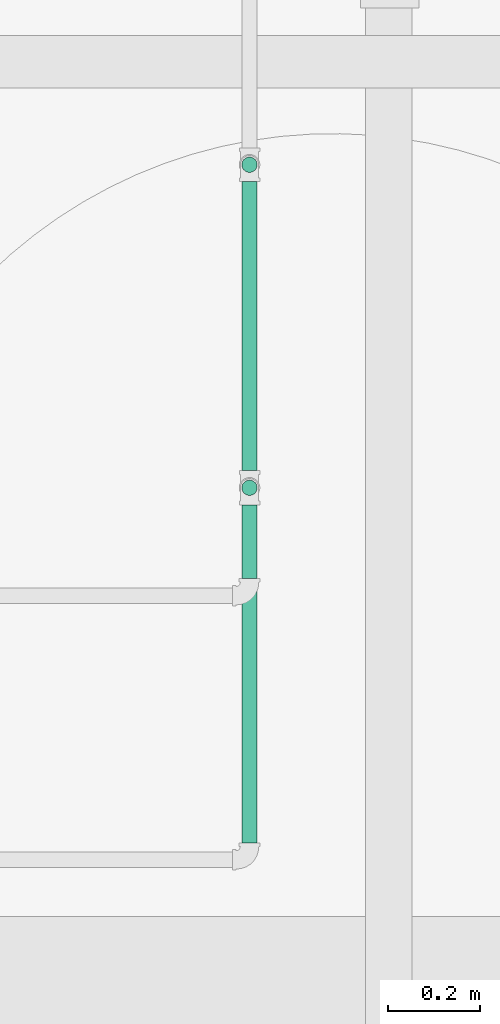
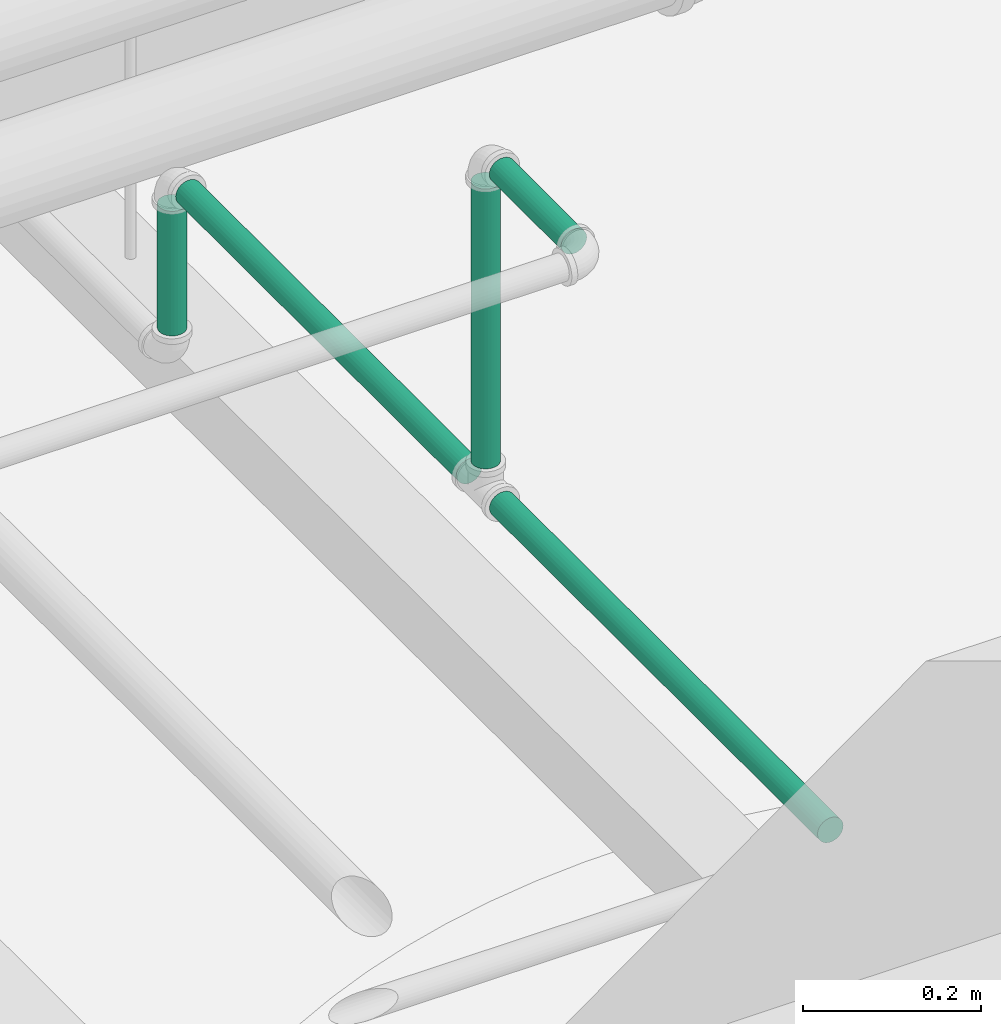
# One storey, part 46 of 108: 5 pipe segments.
"""IFC4 building model written with IfcOpenShell, lengths in feet."""

from ifc_helpers import new_model, entity, si_unit, converted_unit, derived_unit, direction, frame, frame_2d, origin, origin_2d_with_axis, place, context, subcontext, project, spatial, circle, extrude, type_object, element, save


model = new_model("IFC4")

# Units and contexts
model_context = context("Model", 3, precision=0.0001, world=origin(), true_north=direction((6.12303176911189e-17, 1.0)))
body_context = subcontext(model_context, "Body", "Model", "MODEL_VIEW")
ifc_project = project(units=[converted_unit("LENGTHUNIT", "FOOT", entity("IfcRatioMeasure", 0.3048), si_unit("LENGTHUNIT", "METRE"), dimensions=[1, 0, 0, 0, 0, 0, 0]), converted_unit("AREAUNIT", "SQUARE FOOT", entity("IfcRatioMeasure", 0.09290304), si_unit("AREAUNIT", "SQUARE_METRE"), dimensions=[2, 0, 0, 0, 0, 0, 0]), converted_unit("VOLUMEUNIT", "CUBIC FOOT", entity("IfcRatioMeasure", 0.028316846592), si_unit("VOLUMEUNIT", "CUBIC_METRE"), dimensions=[3, 0, 0, 0, 0, 0, 0]), converted_unit("PLANEANGLEUNIT", "DEGREE", entity("IfcRatioMeasure", 0.0174532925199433), si_unit("PLANEANGLEUNIT", "RADIAN"), dimensions=[0, 0, 0, 0, 0, 0, 0]), si_unit("MASSUNIT", "GRAM", prefix="KILO"), derived_unit("MASSDENSITYUNIT", [(si_unit("MASSUNIT", "GRAM", prefix="KILO"), 1), (si_unit("LENGTHUNIT", "METRE"), -3)]), si_unit("TIMEUNIT", "SECOND"), si_unit("FREQUENCYUNIT", "HERTZ"), si_unit("THERMODYNAMICTEMPERATUREUNIT", "DEGREE_CELSIUS"), derived_unit("THERMALTRANSMITTANCEUNIT", [(si_unit("MASSUNIT", "GRAM", prefix="KILO"), 1), (si_unit("THERMODYNAMICTEMPERATUREUNIT", "KELVIN"), -1), (si_unit("TIMEUNIT", "SECOND"), -3)]), derived_unit("VOLUMETRICFLOWRATEUNIT", [(si_unit("LENGTHUNIT", "METRE"), 3), (si_unit("TIMEUNIT", "SECOND"), -1)]), si_unit("ELECTRICCURRENTUNIT", "AMPERE"), si_unit("ELECTRICVOLTAGEUNIT", "VOLT"), si_unit("POWERUNIT", "WATT"), si_unit("FORCEUNIT", "NEWTON"), si_unit("ILLUMINANCEUNIT", "LUX"), si_unit("LUMINOUSFLUXUNIT", "LUMEN"), si_unit("LUMINOUSINTENSITYUNIT", "CANDELA"), derived_unit("USERDEFINED", [(si_unit("MASSUNIT", "GRAM", prefix="KILO"), -1), (si_unit("LENGTHUNIT", "METRE"), -2), (si_unit("TIMEUNIT", "SECOND"), 3), (si_unit("LUMINOUSFLUXUNIT", "LUMEN"), 1)]), derived_unit("LINEARVELOCITYUNIT", [(si_unit("LENGTHUNIT", "METRE"), 1), (si_unit("TIMEUNIT", "SECOND"), -1)]), si_unit("PRESSUREUNIT", "PASCAL"), derived_unit("USERDEFINED", [(si_unit("LENGTHUNIT", "METRE"), -2), (si_unit("MASSUNIT", "GRAM", prefix="KILO"), 1), (si_unit("TIMEUNIT", "SECOND"), -2)])], contexts=[model_context])

# Site, building, storey
site_placement = place(None, origin())
site = spatial("IfcSite", under=ifc_project, at=site_placement, Name="Default", CompositionType="ELEMENT")
building_placement = place(site_placement, origin())
building = spatial("IfcBuilding", under=site, at=building_placement, CompositionType="ELEMENT")
storey_placement = place(building_placement, frame((0.0, 0.0, 168.0)))
storey = spatial("IfcBuildingStorey", under=building, at=storey_placement, Name="Level 15", CompositionType="ELEMENT", Elevation=168.0)

# Pipe segments
pipe_segment_type = type_object("IfcPipeSegmentType", Name="Pipe Types:Fire Prot Sched 10 Main", PredefinedType="NOTDEFINED")
pipe_segment_1_placement = place(storey_placement, frame((-33.5674577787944, 0.395894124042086, 9.99667968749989)))
element("IfcPipeSegment", 1, at=pipe_segment_1_placement, inside=storey, type_object=pipe_segment_type, Name="Pipe Types:Fire Prot Sched 10 Main", ObjectType="Pipe Types:Fire Prot Sched 10 Main", PredefinedType="NOTDEFINED", context=body_context, shape_type="SweptSolid", body=[
    extrude(circle(Radius=0.0547916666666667, at=frame_2d((0.0, -5.55111512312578e-17), x_axis=(1.0, 0.0))), frame((0.0600254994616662, 0.0600254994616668, 0.0)), (0.0, 0.0, 1.0), 1.257109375),
])
pipe_segment_2_placement = place(storey_placement, frame((-33.5674577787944, 0.57788576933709, 9.81497450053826)))
element("IfcPipeSegment", 2, at=pipe_segment_2_placement, inside=storey, type_object=pipe_segment_type, Name="Pipe Types:Fire Prot Sched 10 Main", ObjectType="Pipe Types:Fire Prot Sched 10 Main", PredefinedType="NOTDEFINED", context=body_context, shape_type="SweptSolid", body=[
    extrude(circle(Radius=0.0547916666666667, at=origin_2d_with_axis()), frame((0.0600254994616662, 0.0, 0.0600254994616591), z_axis=(0.0, 1.0, 0.0), x_axis=(-1.0, 0.0, 0.0)), (0.0, 0.0, 1.0), 2.0656568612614),
])
pipe_segment_3_placement = place(storey_placement, frame((-33.5674577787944, -2.08161685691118, 9.81497450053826)))
element("IfcPipeSegment", 3, at=pipe_segment_3_placement, inside=storey, type_object=pipe_segment_type, Name="Pipe Types:Fire Prot Sched 10 Main", ObjectType="Pipe Types:Fire Prot Sched 10 Main", PredefinedType="NOTDEFINED", context=body_context, shape_type="SweptSolid", body=[
    extrude(circle(Radius=0.0547916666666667, at=frame_2d((7.105427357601e-15, 0.0), x_axis=(1.0, 0.0))), frame((0.0600254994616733, 0.0, 0.0600254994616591), z_axis=(0.0, 1.0, 0.0), x_axis=(-1.0, 0.0, 0.0)), (0.0, 0.0, 1.0), 2.41528387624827),
])
pipe_segment_4_placement = place(storey_placement, frame((-33.5674577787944, 2.70472806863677, 9.19412760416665)))
element("IfcPipeSegment", 4, at=pipe_segment_4_placement, inside=storey, type_object=pipe_segment_type, Name="Pipe Types:Fire Prot Sched 10 Main", ObjectType="Pipe Types:Fire Prot Sched 10 Main", PredefinedType="NOTDEFINED", context=body_context, shape_type="SweptSolid", body=[
    extrude(circle(Radius=0.0547916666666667, at=origin_2d_with_axis()), frame((0.0600254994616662, 0.0600254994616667, 0.0), z_axis=(0.0, 0.0, 1.0), x_axis=(-1.0, 0.0, 0.0)), (0.0, 0.0, 1.0), 0.559661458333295),
])
pipe_segment_5_placement = place(storey_placement, frame((-33.5674577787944, -0.19370277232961, 11.3149745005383)))
element("IfcPipeSegment", 5, at=pipe_segment_5_placement, inside=storey, type_object=pipe_segment_type, Name="Pipe Types:Fire Prot Sched 10 Main", ObjectType="Pipe Types:Fire Prot Sched 10 Main", PredefinedType="NOTDEFINED", context=body_context, shape_type="SweptSolid", body=[
    extrude(circle(Radius=0.0547916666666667, at=frame_2d((1.4210854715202e-14, 0.0), x_axis=(1.0, 0.0))), frame((0.0600254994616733, 0.0, 0.0600254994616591), z_axis=(0.0, 1.0, 0.0), x_axis=(-1.0, 0.0, 0.0)), (0.0, 0.0, 1.0), 0.528411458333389),
])

save(model, "model.ifc")
